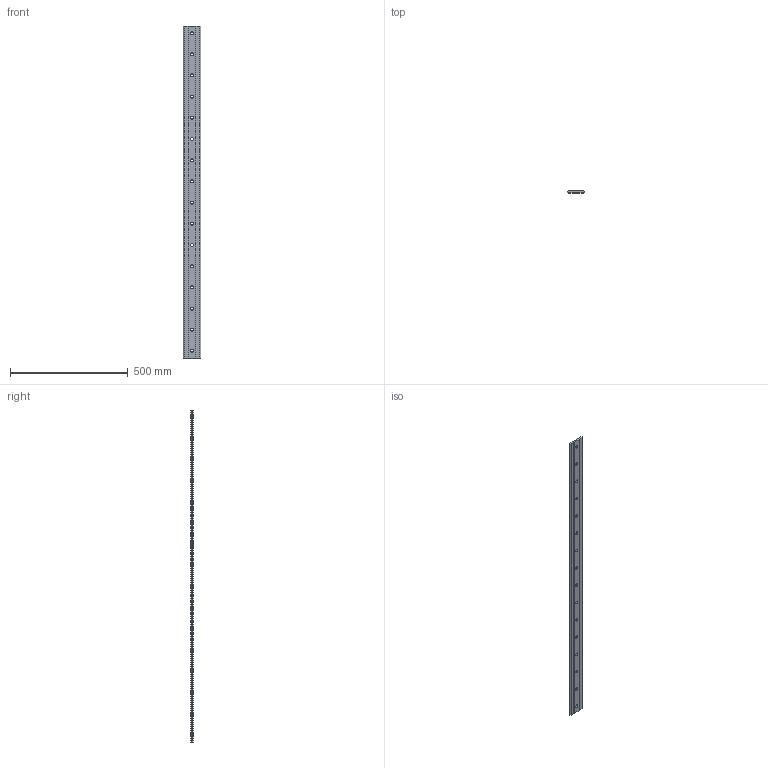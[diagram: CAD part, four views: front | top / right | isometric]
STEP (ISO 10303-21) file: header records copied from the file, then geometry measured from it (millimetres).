
FILE_DESCRIPTION(('STEP AP203'),'1');
FILE_NAME('//192.168.1.1/share/s-4 技術開発/s-4-4_CAD/s-4-4-6_見直し、確認済み/014 修正済み(済)/GF_TOP/GF-76P-1410.step','2022-03-14T00:09:58',(' '),(' '),'Spatial InterOp 3D',' ',' ');
FILE_SCHEMA(('CONFIG_CONTROL_DESIGN'));
Length unit declared in the file: millimetre
Products named in the file (1): 1
Bounding box: 75.94 x 9.12 x 1410 mm (x, y, z)
Volume: 885352.4 mm3; surface area: 229093.8 mm2
Topology: 1 solids, 1 shells, 66 faces, 192 edges, 128 vertices
Faces by surface type: cone 32, cylinder 20, plane 14
Full cylindrical faces by diameter (mm): 11.5 x16
Entity records: 1788 total; most frequent: DIRECTION 318, CARTESIAN_POINT 275, ORIENTED_EDGE 224, EDGE_LOOP 146, AXIS2_PLACEMENT_3D 139, EDGE_CURVE 112, VERTEX_POINT 96, FACE_OUTER_BOUND 82
